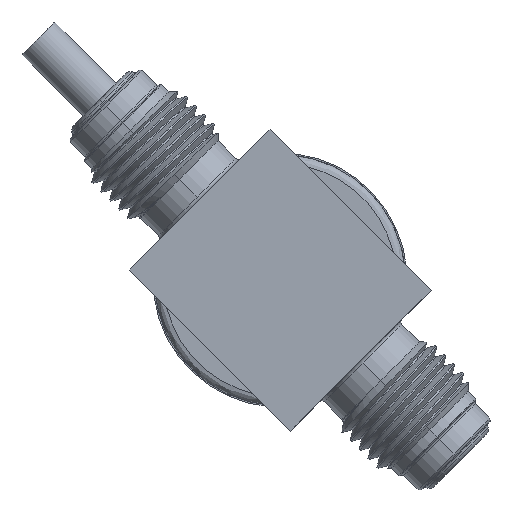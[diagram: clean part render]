
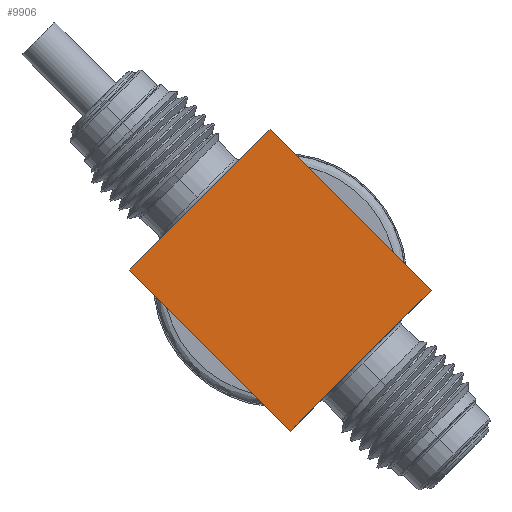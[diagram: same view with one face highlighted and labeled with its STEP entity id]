
A CAD part, front view. The second image highlights one B-rep face of the part: STEP entity #9906.
In plain terms, the highlighted planar face has unit normal (0, -1, 0) as drawn and (0, 0, -1) by its records, which use the part's own axes.
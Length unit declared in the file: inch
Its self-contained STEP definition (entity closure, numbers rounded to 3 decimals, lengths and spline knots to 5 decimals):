
#2112 = VECTOR ( 'NONE', #33067, 39.37008 ) ;
#3025 = EDGE_CURVE ( 'NONE', #26880, #24331, #28271, .T. ) ;
#6586 = CARTESIAN_POINT ( 'NONE',  ( -0.5, 0.4375, 0. ) ) ;
#9596 = EDGE_LOOP ( 'NONE', ( #10015, #19466, #41932, #33280 ) ) ;
#9906 = ADVANCED_FACE ( 'NONE', ( #41217 ), #30486, .T. ) ;
#10015 = ORIENTED_EDGE ( 'NONE', *, *, #3025, .F. ) ;
#14216 = DIRECTION ( 'NONE',  ( 0., 0., -1. ) ) ;
#15105 = VECTOR ( 'NONE', #41670, 39.37008 ) ;
#16159 = LINE ( 'NONE', #28911, #2112 ) ;
#16365 = DIRECTION ( 'NONE',  ( 1., 0., 0. ) ) ;
#18270 = DIRECTION ( 'NONE',  ( 0., 1., 0. ) ) ;
#18434 = CARTESIAN_POINT ( 'NONE',  ( -0.5, 0.4375, 0. ) ) ;
#19078 = EDGE_CURVE ( 'NONE', #26880, #20246, #29764, .T. ) ;
#19466 = ORIENTED_EDGE ( 'NONE', *, *, #19078, .T. ) ;
#20246 = VERTEX_POINT ( 'NONE', #27403 ) ;
#22227 = LINE ( 'NONE', #29011, #35232 ) ;
#22366 = AXIS2_PLACEMENT_3D ( 'NONE', #27181, #14216, #31347 ) ;
#23716 = CARTESIAN_POINT ( 'NONE',  ( -0.5, -0.4375, 0. ) ) ;
#24331 = VERTEX_POINT ( 'NONE', #23716 ) ;
#26880 = VERTEX_POINT ( 'NONE', #6586 ) ;
#27181 = CARTESIAN_POINT ( 'NONE',  ( -0.5, -0.4375, 0. ) ) ;
#27403 = CARTESIAN_POINT ( 'NONE',  ( 0.5, 0.4375, 0. ) ) ;
#28271 = LINE ( 'NONE', #28492, #15105 ) ;
#28492 = CARTESIAN_POINT ( 'NONE',  ( -0.5, 0.4375, 0. ) ) ;
#28911 = CARTESIAN_POINT ( 'NONE',  ( 0.5, -0.4375, 0. ) ) ;
#29011 = CARTESIAN_POINT ( 'NONE',  ( 0.5, -0.4375, 0. ) ) ;
#29700 = CARTESIAN_POINT ( 'NONE',  ( 0.5, -0.4375, 0. ) ) ;
#29764 = LINE ( 'NONE', #18434, #32847 ) ;
#30486 = PLANE ( 'NONE',  #22366 ) ;
#31347 = DIRECTION ( 'NONE',  ( -1., 0., 0. ) ) ;
#31491 = EDGE_CURVE ( 'NONE', #38727, #24331, #16159, .T. ) ;
#32847 = VECTOR ( 'NONE', #16365, 39.37008 ) ;
#33067 = DIRECTION ( 'NONE',  ( -1., 0., 0. ) ) ;
#33280 = ORIENTED_EDGE ( 'NONE', *, *, #31491, .T. ) ;
#34334 = EDGE_CURVE ( 'NONE', #38727, #20246, #22227, .T. ) ;
#35232 = VECTOR ( 'NONE', #18270, 39.37008 ) ;
#38727 = VERTEX_POINT ( 'NONE', #29700 ) ;
#41217 = FACE_OUTER_BOUND ( 'NONE', #9596, .T. ) ;
#41670 = DIRECTION ( 'NONE',  ( 0., -1., 0. ) ) ;
#41932 = ORIENTED_EDGE ( 'NONE', *, *, #34334, .F. ) ;
